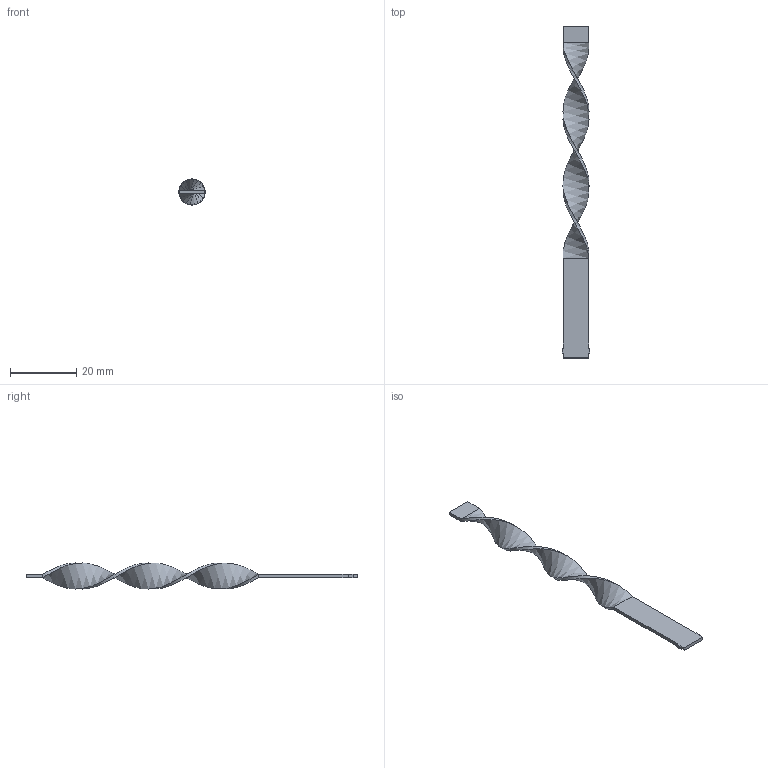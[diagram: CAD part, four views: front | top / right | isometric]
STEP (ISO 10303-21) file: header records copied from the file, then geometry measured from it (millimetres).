
FILE_DESCRIPTION (( 'STEP AP203' ), '1' );
FILE_NAME ('RLAS-8SMx100.STEP', '2015-12-10T13:35:02', ( 'Balzi' ), ( '' ), 'SwSTEP 2.0', 'SolidWorks 2015', '' );
FILE_SCHEMA (( 'CONFIG_CONTROL_DESIGN' ));
Length unit declared in the file: millimetre
Products named in the file (1): RLAS-8SMx100
Bounding box: 8.4 x 100 x 7.86 mm (x, y, z)
Volume: 781.2 mm3; surface area: 1831.4 mm2
Topology: 1 solids, 1 shells, 22 faces, 52 edges, 32 vertices
Faces by surface type: plane 18, bspline 4
Entity records: 1605 total; most frequent: CARTESIAN_POINT 1059, ORIENTED_EDGE 104, DIRECTION 82, EDGE_CURVE 52, VECTOR 44, LINE 44, VERTEX_POINT 32, ADVANCED_FACE 22
